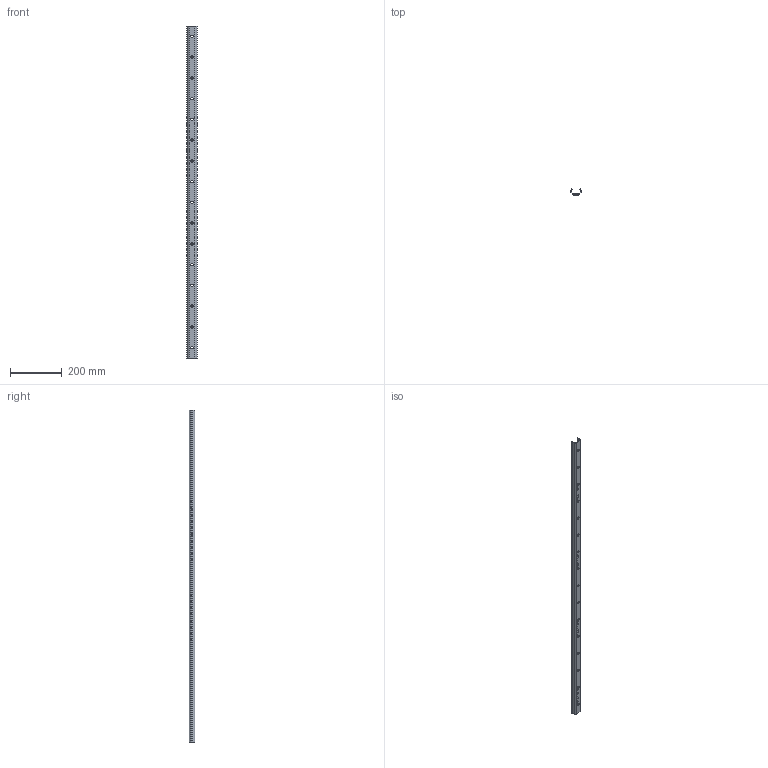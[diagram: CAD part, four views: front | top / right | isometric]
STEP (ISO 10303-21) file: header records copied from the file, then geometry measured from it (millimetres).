
FILE_DESCRIPTION(('STEP AP214'),'1');
FILE_NAME('rail_tex40-1280.stp','2019-03-08T08:33:03',('TraceParts'),('TraceParts S.A.'),'Spatial InterOp 3D',' ',' ');
FILE_SCHEMA(('automotive_design'));
Length unit declared in the file: millimetre
Products named in the file (1): rail_tex40-1280
Bounding box: 39.53 x 21 x 1280 mm (x, y, z)
Volume: 250266.7 mm3; surface area: 176486.6 mm2
Topology: 1 solids, 1 shells, 286 faces, 744 edges, 496 vertices
Faces by surface type: plane 198, cylinder 44, bspline 44
Entity records: 17793 total; most frequent: CARTESIAN_POINT 8595, ORIENTED_EDGE 1488, DIRECTION 1230, EDGE_CURVE 744, LINE 568, VECTOR 568, VERTEX_POINT 496, EDGE_LOOP 354
